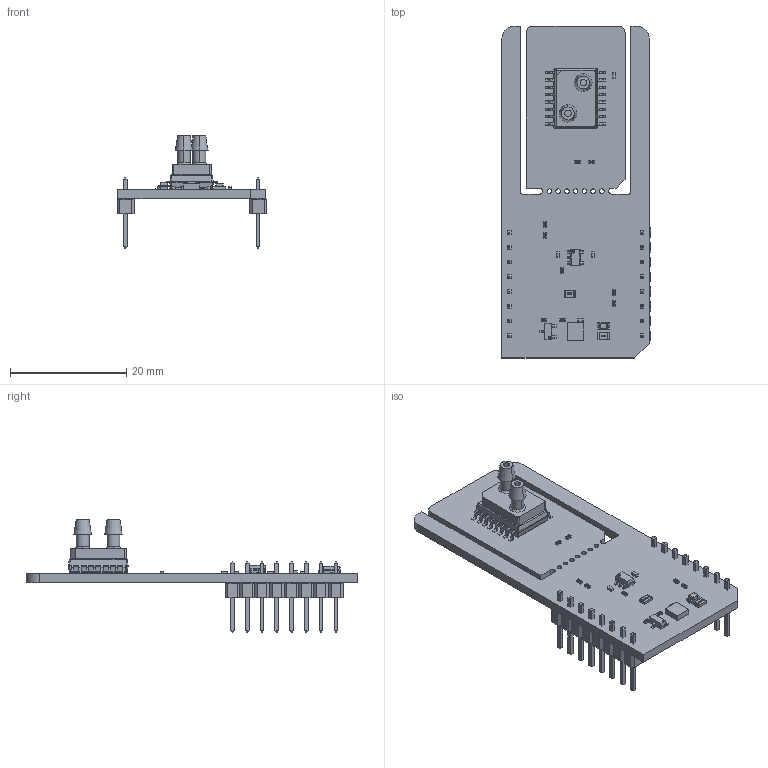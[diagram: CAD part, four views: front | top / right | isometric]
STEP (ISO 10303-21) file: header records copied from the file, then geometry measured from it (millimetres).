
FILE_DESCRIPTION(('Open CASCADE Model'),'2;1');
FILE_NAME('Open CASCADE Shape Model','2025-12-22T15:54:22',('Author'),( 'Open CASCADE'),'Open CASCADE STEP processor 6.8','Open CASCADE 6.8' ,'Unknown');
FILE_SCHEMA(('AUTOMOTIVE_DESIGN { 1 0 10303 214 1 1 1 1 }'));
Length unit declared in the file: millimetre
Products named in the file (38): PCB; Board; C1; User_Library-SMD_CAPACITOR0402; JP1; User_Library-R_0805; LD1; led_0805_green; MBD1; Header_1x8; Free-Models; 1240637040; User_Library-PinHeaderX5-1_PinHeaderX5_Body_1; User_Library-PinHeaderX5-1_PinHeaderX5_Pins_1; Q1; SOT23-3; R1; R2; User_Library-R_0402; R4; U1; 1057626688; Extruded; C2; C4; C5; R5; R6; R7; R8; R9; R10; R11; U2; c-9336-bce-s-250-000-1-3d_RGB4078660; U3; User_Library-SOT23-5-2
Assembly tree (51 placements, depth 7):
  PCB
    Board
    C1
      User_Library-SMD_CAPACITOR0402
    JP1
      User_Library-R_0805
    LD1
      led_0805_green
    MBD1
      Header_1x8  x2
        PCB
          Free-Models
            1240637040  x2
              User_Library-PinHeaderX5-1_PinHeaderX5_Body_1
              User_Library-PinHeaderX5-1_PinHeaderX5_Pins_1
    Q1
      SOT23-3
    R1
      User_Library-R_0805
    R2
      User_Library-R_0402
    R4
      User_Library-R_0402
    U1
      1057626688
        Extruded
    C2
      User_Library-SMD_CAPACITOR0402
    C4
      User_Library-SMD_CAPACITOR0402
    C5
      User_Library-SMD_CAPACITOR0402
    R5
      User_Library-R_0402
    R6
      User_Library-R_0402
    R7
      User_Library-R_0402
    R8
      User_Library-R_0402
    R9
      User_Library-R_0402
    R10
      User_Library-R_0402
    R11
      User_Library-R_0402
    U2
      c-9336-bce-s-250-000-1-3d_RGB4078660
    U3
      User_Library-SOT23-5-2
Bounding box: 25.78 x 57.15 x 19.43 mm (x, y, z)
Volume: 3015.2 mm3; surface area: 5118.7 mm2
Topology: 62 solids, 63 shells, 2171 faces, 5512 edges, 3520 vertices
Faces by surface type: plane 1575, bspline 318, cylinder 222, sphere 48, torus 4, cone 4
Full cylindrical faces by diameter (mm): 0.8 x7
Entity records: 37329 total; most frequent: CARTESIAN_POINT 9271, ORIENTED_EDGE 4594, DIRECTION 4232, EDGE_CURVE 2297, LINE 1758, VECTOR 1758, VERTEX_POINT 1470, AXIS2_PLACEMENT_3D 1237
